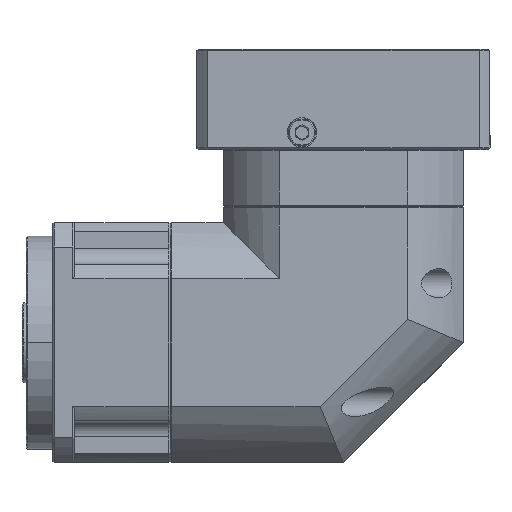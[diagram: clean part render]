
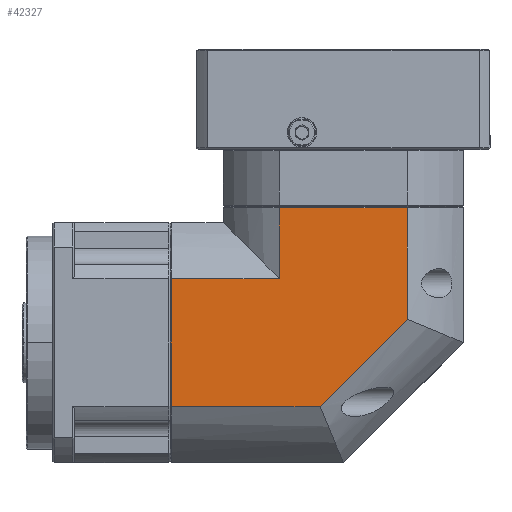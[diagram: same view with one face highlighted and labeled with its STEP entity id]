
A CAD part, top view. The second image highlights one B-rep face of the part: STEP entity #42327.
In plain terms, the highlighted planar face has unit normal (0, 0, -1).
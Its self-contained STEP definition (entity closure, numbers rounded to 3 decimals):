
#257 = CARTESIAN_POINT ( 'NONE',  ( 95., 50.5, 45. ) ) ;
#956 = VERTEX_POINT ( 'NONE', #75332 ) ;
#1176 = DIRECTION ( 'NONE',  ( 1., 0., 0. ) ) ;
#1266 = LINE ( 'NONE', #80495, #37381 ) ;
#1831 = CARTESIAN_POINT ( 'NONE',  ( 95., 13.25, 45. ) ) ;
#1924 = VECTOR ( 'NONE', #50818, 1000. ) ;
#3804 = VECTOR ( 'NONE', #4766, 1000. ) ;
#4766 = DIRECTION ( 'NONE',  ( -1., 0., 0. ) ) ;
#6193 = DIRECTION ( 'NONE',  ( 0., 0., -1. ) ) ;
#6476 = DIRECTION ( 'NONE',  ( 0., 1., 0. ) ) ;
#7046 = EDGE_CURVE ( 'NONE', #44532, #956, #17153, .T. ) ;
#16072 = CARTESIAN_POINT ( 'NONE',  ( 143., 8.698, 45. ) ) ;
#16106 = VERTEX_POINT ( 'NONE', #16072 ) ;
#17153 = LINE ( 'NONE', #17989, #3804 ) ;
#17989 = CARTESIAN_POINT ( 'NONE',  ( 98.75, 24., 45. ) ) ;
#18022 = VECTOR ( 'NONE', #59514, 1000. ) ;
#21890 = LINE ( 'NONE', #25992, #25005 ) ;
#22609 = VECTOR ( 'NONE', #25127, 1000. ) ;
#25005 = VECTOR ( 'NONE', #38654, 1000. ) ;
#25127 = DIRECTION ( 'NONE',  ( 0., -1., 0. ) ) ;
#25992 = CARTESIAN_POINT ( 'NONE',  ( 143., 13.25, 45. ) ) ;
#30412 = ORIENTED_EDGE ( 'NONE', *, *, #48594, .T. ) ;
#32979 = CARTESIAN_POINT ( 'NONE',  ( 110.302, -24., 45. ) ) ;
#33420 = ORIENTED_EDGE ( 'NONE', *, *, #74381, .F. ) ;
#34953 = LINE ( 'NONE', #37481, #1924 ) ;
#35316 = ORIENTED_EDGE ( 'NONE', *, *, #7046, .F. ) ;
#35505 = LINE ( 'NONE', #52055, #18022 ) ;
#37381 = VECTOR ( 'NONE', #1176, 1000. ) ;
#37481 = CARTESIAN_POINT ( 'NONE',  ( 149.421, 15.119, 45. ) ) ;
#37632 = CARTESIAN_POINT ( 'NONE',  ( 95., 24., 45. ) ) ;
#38621 = EDGE_LOOP ( 'NONE', ( #33420, #41904, #54427, #35316, #73017, #30412, #38816 ) ) ;
#38654 = DIRECTION ( 'NONE',  ( 0., 1., 0. ) ) ;
#38816 = ORIENTED_EDGE ( 'NONE', *, *, #48475, .F. ) ;
#39482 = EDGE_CURVE ( 'NONE', #52776, #70661, #35505, .T. ) ;
#41115 = LINE ( 'NONE', #1831, #73221 ) ;
#41904 = ORIENTED_EDGE ( 'NONE', *, *, #39482, .F. ) ;
#42327 = ADVANCED_FACE ( 'NONE', ( #84726 ), #59519, .T. ) ;
#42704 = VERTEX_POINT ( 'NONE', #257 ) ;
#42789 = VERTEX_POINT ( 'NONE', #80695 ) ;
#44532 = VERTEX_POINT ( 'NONE', #37632 ) ;
#44940 = EDGE_CURVE ( 'NONE', #42704, #44532, #41115, .T. ) ;
#45952 = CARTESIAN_POINT ( 'NONE',  ( 54.5, -24., 45. ) ) ;
#47554 = CARTESIAN_POINT ( 'NONE',  ( 54.5, -24., 45. ) ) ;
#48475 = EDGE_CURVE ( 'NONE', #16106, #42789, #21890, .T. ) ;
#48594 = EDGE_CURVE ( 'NONE', #42704, #42789, #1266, .T. ) ;
#50818 = DIRECTION ( 'NONE',  ( 0.707, 0.707, 0. ) ) ;
#52055 = CARTESIAN_POINT ( 'NONE',  ( 98.75, -24., 45. ) ) ;
#52776 = VERTEX_POINT ( 'NONE', #47554 ) ;
#54427 = ORIENTED_EDGE ( 'NONE', *, *, #61869, .F. ) ;
#56336 = AXIS2_PLACEMENT_3D ( 'NONE', #45952, #6193, #6476 ) ;
#59514 = DIRECTION ( 'NONE',  ( 1., 0., 0. ) ) ;
#59519 = PLANE ( 'NONE',  #56336 ) ;
#59832 = LINE ( 'NONE', #64988, #22609 ) ;
#60398 = DIRECTION ( 'NONE',  ( 0., -1., 0. ) ) ;
#61869 = EDGE_CURVE ( 'NONE', #956, #52776, #59832, .T. ) ;
#64988 = CARTESIAN_POINT ( 'NONE',  ( 54.5, 13.25, 45. ) ) ;
#70661 = VERTEX_POINT ( 'NONE', #32979 ) ;
#73017 = ORIENTED_EDGE ( 'NONE', *, *, #44940, .F. ) ;
#73221 = VECTOR ( 'NONE', #60398, 1000. ) ;
#74381 = EDGE_CURVE ( 'NONE', #70661, #16106, #34953, .T. ) ;
#75332 = CARTESIAN_POINT ( 'NONE',  ( 54.5, 24., 45. ) ) ;
#80495 = CARTESIAN_POINT ( 'NONE',  ( 119., 50.5, 45. ) ) ;
#80695 = CARTESIAN_POINT ( 'NONE',  ( 143., 50.5, 45. ) ) ;
#84726 = FACE_OUTER_BOUND ( 'NONE', #38621, .T. ) ;
